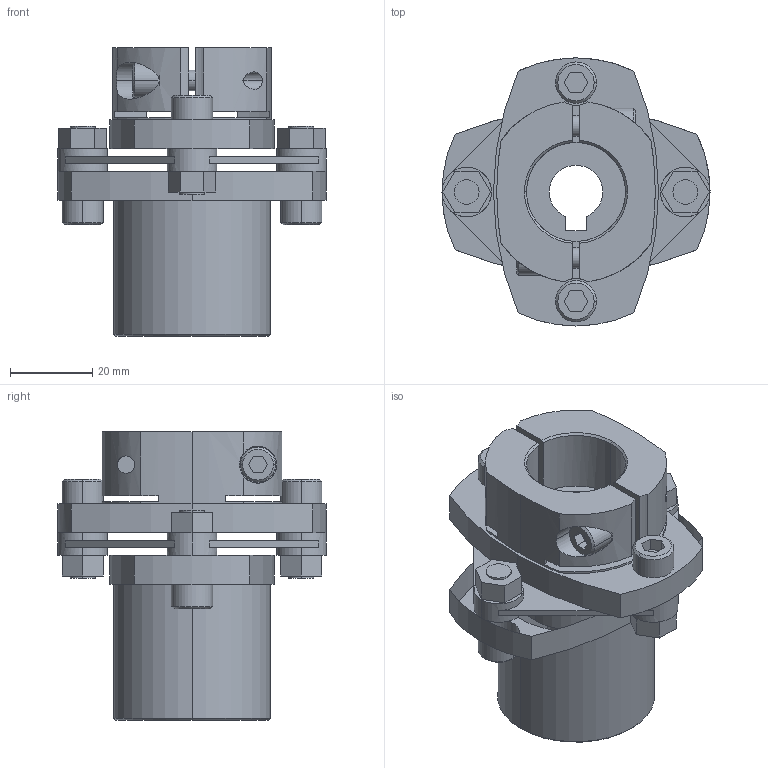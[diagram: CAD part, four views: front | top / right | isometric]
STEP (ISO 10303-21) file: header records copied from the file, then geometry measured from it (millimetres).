
FILE_DESCRIPTION((''),'2;1');
FILE_NAME('LCS-65M-16L亊24B.stp','2011-08-20T16:01:49',(''),(''),'AutoCAD STEP 2000i','AutoCAD 2000i',', , ');
FILE_SCHEMA(('CONFIG_CONTROL_DESIGN'));
Length unit declared in the file: millimetre
Products named in the file (10): LCS-65M-16L×24B; 忣兜1; LC65-B024; LC65-B022; LC65-B016; LC65M-L016; LC65M-L011; LC65-B014-1; LC65-B014; LCS65-ITA
Assembly tree (9 placements, depth 2):
  LCS-65M-16L×24B
    忣兜1
    LC65-B024
    LC65-B022
    LC65-B016
    LC65M-L016
    LC65M-L011
    LC65-B014-1
    LC65-B014
    LCS65-ITA
Bounding box: 65 x 65 x 70 mm (x, y, z)
Volume: 77131.9 mm3; surface area: 28716.8 mm2
Topology: 1 solids, 1 shells, 222 faces, 576 edges, 376 vertices
Faces by surface type: plane 115, cylinder 84, cone 23
Entity records: 7309 total; most frequent: CARTESIAN_POINT 1454, DIRECTION 1246, ORIENTED_EDGE 1152, EDGE_CURVE 576, AXIS2_PLACEMENT_3D 456, VERTEX_POINT 376, VECTOR 334, LINE 334
